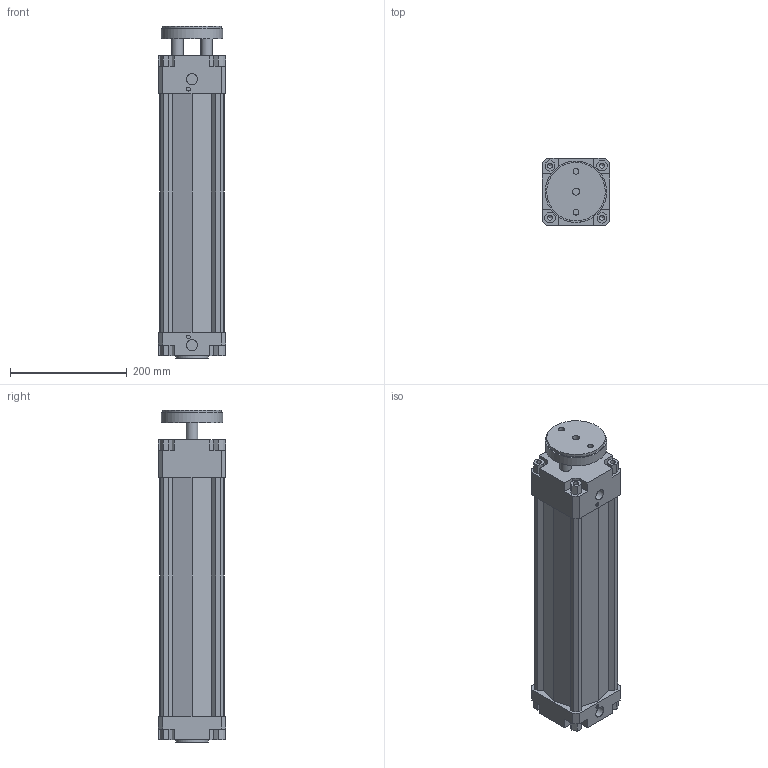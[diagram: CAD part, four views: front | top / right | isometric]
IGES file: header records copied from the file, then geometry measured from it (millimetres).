
Global section: file name: 134#_100_0350_01; native system: Autodesk Inventor 2014; preprocessor: unknown; author: A. Manieri; date: 20161006.165341; units: millimetre
Bounding box: 115 x 115 x 568 mm (x, y, z)
Volume: 3195259.8 mm3; surface area: 543233.4 mm2
Topology: 2 solids, 2 shells, 180 faces, 491 edges, 335 vertices
Faces by surface type: bspline 180
